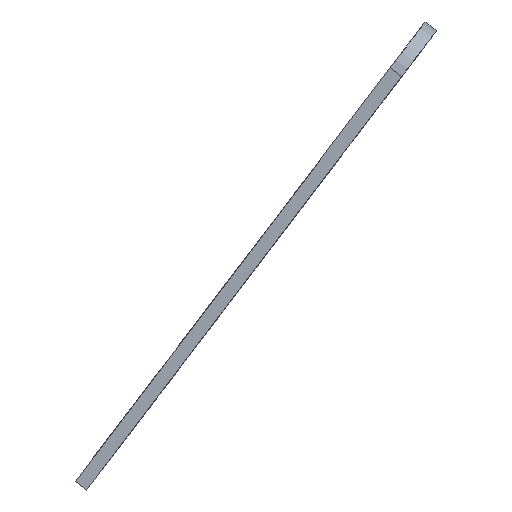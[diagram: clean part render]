
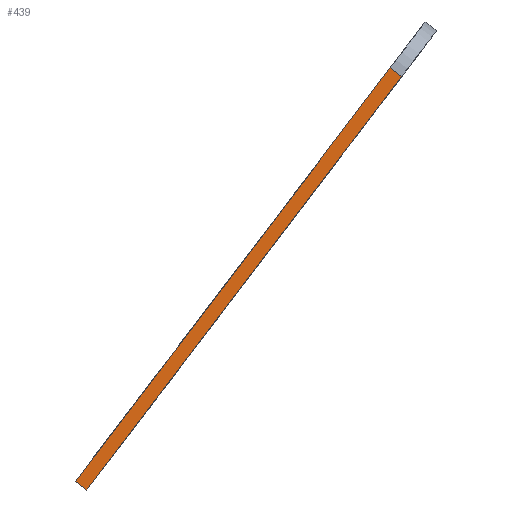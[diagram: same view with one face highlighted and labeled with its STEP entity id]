
A CAD part, front view. The second image highlights one B-rep face of the part: STEP entity #439.
In plain terms, the highlighted planar face has unit normal (0, -1, 0).
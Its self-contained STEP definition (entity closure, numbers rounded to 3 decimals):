
#220 = PLANE('',#221);
#221 = AXIS2_PLACEMENT_3D('',#222,#223,#224);
#222 = CARTESIAN_POINT('',(-842.628,1.736,
    705.486));
#223 = DIRECTION('',(0.796,0.,-0.606
    ));
#224 = DIRECTION('',(0.,-1.,0.));
#269 = PLANE('',#270);
#270 = AXIS2_PLACEMENT_3D('',#271,#272,#273);
#271 = CARTESIAN_POINT('',(-850.585,1.736,
    711.543));
#272 = DIRECTION('',(0.796,0.,-0.606
    ));
#273 = DIRECTION('',(0.,-1.,0.));
#334 = VERTEX_POINT('',#335);
#335 = CARTESIAN_POINT('',(-971.738,-78.264,
    552.415));
#344 = PLANE('',#345);
#345 = AXIS2_PLACEMENT_3D('',#346,#347,#348);
#346 = CARTESIAN_POINT('',(-971.738,-78.264,
    552.415));
#347 = DIRECTION('',(-0.606,0.,-0.796
    ));
#348 = DIRECTION('',(0.,1.,0.));
#392 = VERTEX_POINT('',#393);
#393 = CARTESIAN_POINT('',(-963.782,-78.264,
    546.358));
#414 = EDGE_CURVE('',#392,#334,#415,.T.);
#415 = SURFACE_CURVE('',#416,(#420,#427),.PCURVE_S1.);
#416 = LINE('',#417,#418);
#417 = CARTESIAN_POINT('',(-971.738,-78.264,
    552.415));
#418 = VECTOR('',#419,1.);
#419 = DIRECTION('',(-0.796,0.,0.606)
  );
#420 = PCURVE('',#344,#421);
#421 = DEFINITIONAL_REPRESENTATION('',(#422),#426);
#422 = LINE('',#423,#424);
#423 = CARTESIAN_POINT('',(0.,0.));
#424 = VECTOR('',#425,1.);
#425 = DIRECTION('',(0.,-1.));
#426 = ( GEOMETRIC_REPRESENTATION_CONTEXT(2) 
PARAMETRIC_REPRESENTATION_CONTEXT() REPRESENTATION_CONTEXT('2D SPACE',''
  ) );
#427 = PCURVE('',#428,#433);
#428 = PLANE('',#429);
#429 = AXIS2_PLACEMENT_3D('',#430,#431,#432);
#430 = CARTESIAN_POINT('',(-729.431,-78.264,
    870.672));
#431 = DIRECTION('',(0.,-1.,0.));
#432 = DIRECTION('',(0.796,0.,-0.606
    ));
#433 = DEFINITIONAL_REPRESENTATION('',(#434),#438);
#434 = LINE('',#435,#436);
#435 = CARTESIAN_POINT('',(0.,-400.));
#436 = VECTOR('',#437,1.);
#437 = DIRECTION('',(-1.,0.));
#438 = ( GEOMETRIC_REPRESENTATION_CONTEXT(2) 
PARAMETRIC_REPRESENTATION_CONTEXT() REPRESENTATION_CONTEXT('2D SPACE',''
  ) );
#439 = ADVANCED_FACE('',(#440),#428,.T.);
#440 = FACE_BOUND('',#441,.T.);
#441 = EDGE_LOOP('',(#442,#465,#466,#489));
#442 = ORIENTED_EDGE('',*,*,#443,.F.);
#443 = EDGE_CURVE('',#334,#444,#446,.T.);
#444 = VERTEX_POINT('',#445);
#445 = CARTESIAN_POINT('',(-753.662,-78.264,
    838.846));
#446 = SURFACE_CURVE('',#447,(#451,#458),.PCURVE_S1.);
#447 = LINE('',#448,#449);
#448 = CARTESIAN_POINT('',(-850.585,-78.264,
    711.543));
#449 = VECTOR('',#450,1.);
#450 = DIRECTION('',(0.606,0.,0.796)
  );
#451 = PCURVE('',#428,#452);
#452 = DEFINITIONAL_REPRESENTATION('',(#453),#457);
#453 = LINE('',#454,#455);
#454 = CARTESIAN_POINT('',(0.,-200.));
#455 = VECTOR('',#456,1.);
#456 = DIRECTION('',(0.,1.));
#457 = ( GEOMETRIC_REPRESENTATION_CONTEXT(2) 
PARAMETRIC_REPRESENTATION_CONTEXT() REPRESENTATION_CONTEXT('2D SPACE',''
  ) );
#458 = PCURVE('',#269,#459);
#459 = DEFINITIONAL_REPRESENTATION('',(#460),#464);
#460 = LINE('',#461,#462);
#461 = CARTESIAN_POINT('',(80.,0.));
#462 = VECTOR('',#463,1.);
#463 = DIRECTION('',(0.,-1.));
#464 = ( GEOMETRIC_REPRESENTATION_CONTEXT(2) 
PARAMETRIC_REPRESENTATION_CONTEXT() REPRESENTATION_CONTEXT('2D SPACE',''
  ) );
#465 = ORIENTED_EDGE('',*,*,#414,.F.);
#466 = ORIENTED_EDGE('',*,*,#467,.T.);
#467 = EDGE_CURVE('',#392,#468,#470,.T.);
#468 = VERTEX_POINT('',#469);
#469 = CARTESIAN_POINT('',(-745.705,-78.264,
    832.788));
#470 = SURFACE_CURVE('',#471,(#475,#482),.PCURVE_S1.);
#471 = LINE('',#472,#473);
#472 = CARTESIAN_POINT('',(-842.628,-78.264,
    705.486));
#473 = VECTOR('',#474,1.);
#474 = DIRECTION('',(0.606,0.,0.796)
  );
#475 = PCURVE('',#428,#476);
#476 = DEFINITIONAL_REPRESENTATION('',(#477),#481);
#477 = LINE('',#478,#479);
#478 = CARTESIAN_POINT('',(10.,-200.));
#479 = VECTOR('',#480,1.);
#480 = DIRECTION('',(0.,1.));
#481 = ( GEOMETRIC_REPRESENTATION_CONTEXT(2) 
PARAMETRIC_REPRESENTATION_CONTEXT() REPRESENTATION_CONTEXT('2D SPACE',''
  ) );
#482 = PCURVE('',#220,#483);
#483 = DEFINITIONAL_REPRESENTATION('',(#484),#488);
#484 = LINE('',#485,#486);
#485 = CARTESIAN_POINT('',(80.,0.));
#486 = VECTOR('',#487,1.);
#487 = DIRECTION('',(0.,-1.));
#488 = ( GEOMETRIC_REPRESENTATION_CONTEXT(2) 
PARAMETRIC_REPRESENTATION_CONTEXT() REPRESENTATION_CONTEXT('2D SPACE',''
  ) );
#489 = ORIENTED_EDGE('',*,*,#490,.F.);
#490 = EDGE_CURVE('',#444,#468,#491,.T.);
#491 = SURFACE_CURVE('',#492,(#496,#503),.PCURVE_S1.);
#492 = LINE('',#493,#494);
#493 = CARTESIAN_POINT('',(-753.662,-78.264,
    838.846));
#494 = VECTOR('',#495,1.);
#495 = DIRECTION('',(0.796,0.,-0.606
    ));
#496 = PCURVE('',#428,#497);
#497 = DEFINITIONAL_REPRESENTATION('',(#498),#502);
#498 = LINE('',#499,#500);
#499 = CARTESIAN_POINT('',(0.,-40.));
#500 = VECTOR('',#501,1.);
#501 = DIRECTION('',(1.,0.));
#502 = ( GEOMETRIC_REPRESENTATION_CONTEXT(2) 
PARAMETRIC_REPRESENTATION_CONTEXT() REPRESENTATION_CONTEXT('2D SPACE',''
  ) );
#503 = PCURVE('',#504,#509);
#504 = CYLINDRICAL_SURFACE('',#505,40.);
#505 = AXIS2_PLACEMENT_3D('',#506,#507,#508);
#506 = CARTESIAN_POINT('',(-749.684,-38.264,
    835.817));
#507 = DIRECTION('',(0.796,0.,-0.606
    ));
#508 = DIRECTION('',(0.,-1.,0.));
#509 = DEFINITIONAL_REPRESENTATION('',(#510),#514);
#510 = LINE('',#511,#512);
#511 = CARTESIAN_POINT('',(6.283,-5.));
#512 = VECTOR('',#513,1.);
#513 = DIRECTION('',(0.,1.));
#514 = ( GEOMETRIC_REPRESENTATION_CONTEXT(2) 
PARAMETRIC_REPRESENTATION_CONTEXT() REPRESENTATION_CONTEXT('2D SPACE',''
  ) );
